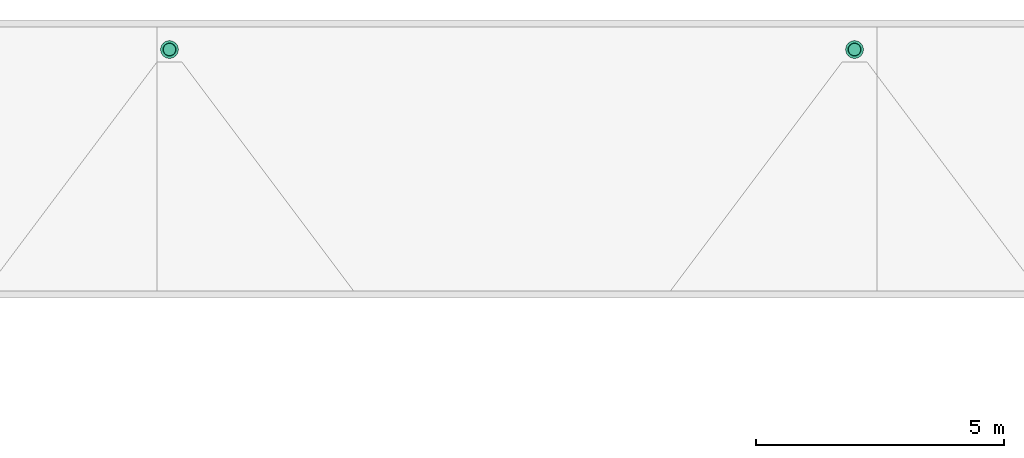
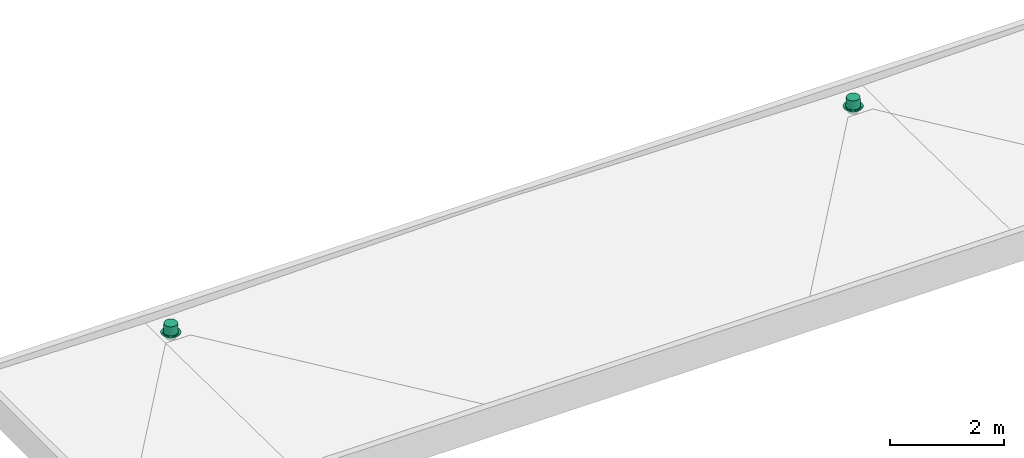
# One storey, part 33 of 33: 2 flow terminals.
"""IFC2X3 building model written with IfcOpenShell, lengths in millimetres."""

from ifc_helpers import new_model, entity, si_unit, converted_unit, derived_unit, direction, frame, origin, place, context, subcontext, project, spatial, faceted_brep, source, transform, mapped, material, material_list, element, save


model = new_model("IFC2X3")

# Units and contexts
model_context = context("Model", 3, precision=0.01, world=origin(), true_north=direction((6.12303176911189e-17, 1.0)))
body_context = subcontext(model_context, "Body", "Model", "MODEL_VIEW")
ifc_project = project(units=[si_unit("LENGTHUNIT", "METRE", prefix="MILLI"), si_unit("AREAUNIT", "SQUARE_METRE"), si_unit("VOLUMEUNIT", "CUBIC_METRE"), converted_unit("PLANEANGLEUNIT", "DEGREE", entity("IfcRatioMeasure", 0.0174532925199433), si_unit("PLANEANGLEUNIT", "RADIAN"), dimensions=[0, 0, 0, 0, 0, 0, 0]), si_unit("MASSUNIT", "GRAM", prefix="KILO"), derived_unit("MASSDENSITYUNIT", [(si_unit("MASSUNIT", "GRAM", prefix="KILO"), 1), (si_unit("LENGTHUNIT", "METRE"), -3)]), si_unit("TIMEUNIT", "SECOND"), si_unit("FREQUENCYUNIT", "HERTZ"), si_unit("THERMODYNAMICTEMPERATUREUNIT", "DEGREE_CELSIUS"), derived_unit("THERMALTRANSMITTANCEUNIT", [(si_unit("MASSUNIT", "GRAM", prefix="KILO"), 1), (si_unit("THERMODYNAMICTEMPERATUREUNIT", "KELVIN"), -1), (si_unit("TIMEUNIT", "SECOND"), -3)]), derived_unit("VOLUMETRICFLOWRATEUNIT", [(si_unit("LENGTHUNIT", "METRE"), 3), (si_unit("TIMEUNIT", "SECOND"), -1)]), si_unit("ELECTRICCURRENTUNIT", "AMPERE"), si_unit("ELECTRICVOLTAGEUNIT", "VOLT"), si_unit("POWERUNIT", "WATT"), si_unit("FORCEUNIT", "NEWTON", prefix="KILO"), si_unit("ILLUMINANCEUNIT", "LUX"), si_unit("LUMINOUSFLUXUNIT", "LUMEN"), si_unit("LUMINOUSINTENSITYUNIT", "CANDELA"), derived_unit("USERDEFINED", [(si_unit("MASSUNIT", "GRAM", prefix="KILO"), -1), (si_unit("LENGTHUNIT", "METRE"), -2), (si_unit("TIMEUNIT", "SECOND"), 3), (si_unit("LUMINOUSFLUXUNIT", "LUMEN"), 1)]), derived_unit("LINEARVELOCITYUNIT", [(si_unit("LENGTHUNIT", "METRE"), 1), (si_unit("TIMEUNIT", "SECOND"), -1)]), si_unit("PRESSUREUNIT", "PASCAL"), derived_unit("USERDEFINED", [(si_unit("LENGTHUNIT", "METRE"), -2), (si_unit("MASSUNIT", "GRAM", prefix="KILO"), 1), (si_unit("TIMEUNIT", "SECOND"), -2)])], contexts=[model_context])

# Site, building, storey
site_placement = place(None, origin())
site = spatial("IfcSite", under=ifc_project, at=site_placement, Name="Default", CompositionType="ELEMENT")
building_placement = place(site_placement, origin())
building = spatial("IfcBuilding", under=site, at=building_placement, CompositionType="ELEMENT")
storey_placement = place(building_placement, frame((0.0, 0.0, 4000.0)))
storey = spatial("IfcBuildingStorey", under=building, at=storey_placement, Name="2. KORRUS", CompositionType="ELEMENT", Elevation=4000.0)

# Flow terminals
ifc_material_1 = material(Name="Platic-WATTS_Polyethylene")
ifc_material_2 = material(Name="Metal-WATTS-Cast Iron")
ifc_material_list_1 = material_list([ifc_material_1, ifc_material_2])
shared_shape = source(origin(), body_context, "Body", "Brep", [
    faceted_brep([(95.1434063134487, 109.801344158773, 0.0), (122.224043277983, 78.5486230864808, 0.0), (0.0, 0.0, 0.0), (60.3548164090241, 132.158613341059, 0.0), (139.402815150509, 40.9323597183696, 0.0), (145.288000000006, 0.0, 0.0), (139.40281515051, -40.9323597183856, 0.0), (122.224043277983, -78.5486230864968, 0.0), (95.1434063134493, -109.80134415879, 0.0), (60.3548164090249, -132.158613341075, 0.0), (20.676638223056, -143.809177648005, 0.0), (-20.6766382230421, -143.809177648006, 0.0), (-60.3548164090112, -132.158613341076, 0.0), (-95.1434063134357, -109.80134415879, 0.0), (-122.22404327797, -78.548623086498, 0.0), (-139.402815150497, -40.9323597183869, 0.0), (-145.287999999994, 0.0, 0.0), (-139.402815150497, 40.9323597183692, 0.0), (-122.22404327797, 78.5486230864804, 0.0), (-95.1434063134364, 109.801344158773, 0.0), (-60.354816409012, 132.158613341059, 0.0), (-20.676638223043, 143.809177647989, 0.0), (20.6766382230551, 143.809177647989, 0.0), (117.160652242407, 38.0678035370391, 193.64960000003), (0.0, 0.0, 193.649600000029), (123.190000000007, 0.0, 193.649600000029), (99.6628035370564, 72.4092652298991, 193.64960000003), (72.4092652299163, 99.6628035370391, 193.64960000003), (38.0678035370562, 117.160652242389, 193.649600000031), (0.0, 123.189999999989, 193.649600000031), (-38.0678035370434, 117.160652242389, 193.649600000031), (-72.4092652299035, 99.6628035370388, 193.649600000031), (-99.6628035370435, 72.4092652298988, 193.64960000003), (-117.160652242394, 38.0678035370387, 193.64960000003), (-123.189999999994, 0.0, 193.649600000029), (-117.160652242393, -38.0678035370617, 193.649600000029), (-99.662803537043, -72.4092652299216, 193.649600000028), (-72.4092652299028, -99.6628035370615, 193.649600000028), (-38.0678035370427, -117.160652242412, 193.649600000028), (0.0, -123.190000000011, 193.649600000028), (38.067803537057, -117.160652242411, 193.649600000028), (72.4092652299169, -99.6628035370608, 193.649600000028), (99.6628035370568, -72.4092652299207, 193.649600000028), (117.160652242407, -38.0678035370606, 193.649600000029), (-126.2424095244, 37.068115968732, 7.9248000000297), (-86.1613364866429, 99.4354829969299, 7.9248000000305), (-54.6569840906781, 119.682100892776, 7.92480000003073), (-110.685409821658, 71.1331936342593, 7.92480000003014), (-131.571999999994, 0.0, 7.92480000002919), (-18.7246479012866, 130.23278675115, 7.92480000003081), (18.7246479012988, 130.23278675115, 7.92480000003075), (54.6569840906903, 119.682100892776, 7.92480000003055), (110.68540982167, 71.1331936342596, 7.92480000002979), (86.1613364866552, 99.4354829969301, 7.92480000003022), (126.242409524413, 37.0681159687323, 7.92480000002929), (131.572000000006, 0.0, 7.92480000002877), (126.242409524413, -37.0681159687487, 7.92480000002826), (86.1613364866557, -99.4354829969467, 7.92480000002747), (110.685409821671, -71.1331936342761, 7.92480000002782), (54.656984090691, -119.682100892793, 7.92480000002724), (18.7246479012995, -130.232786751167, 7.92480000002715), (-18.7246479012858, -130.232786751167, 7.92480000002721), (-54.6569840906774, -119.682100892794, 7.92480000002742), (-110.685409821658, -71.133193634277, 7.92480000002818), (-86.1613364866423, -99.4354829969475, 7.92480000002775), (-126.2424095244, -37.0681159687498, 7.92480000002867), (139.402815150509, 40.9323597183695, 7.92480000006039), (145.288000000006, 0.0, 7.92480000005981), (122.224043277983, 78.5486230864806, 7.92480000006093), (95.1434063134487, 109.801344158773, 7.92480000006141), (60.3548164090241, 132.158613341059, 7.92480000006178), (20.6766382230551, 143.809177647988, 7.924800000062), (-20.676638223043, 143.809177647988, 7.92480000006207), (-60.354816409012, 132.158613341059, 7.92480000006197), (-95.1434063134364, 109.801344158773, 7.92480000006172), (-122.22404327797, 78.5486230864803, 7.92480000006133), (-139.402815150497, 40.9323597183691, 7.92480000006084), (-145.287999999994, 0.0, 7.92480000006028), (-139.402815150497, -40.932359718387, 7.92480000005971), (-122.22404327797, -78.5486230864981, 7.92480000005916), (-95.1434063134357, -109.801344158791, 7.92480000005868), (-60.3548164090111, -132.158613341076, 7.92480000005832), (-20.6766382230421, -143.809177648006, 7.92480000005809), (20.676638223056, -143.809177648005, 7.92480000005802), (60.354816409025, -132.158613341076, 7.92480000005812), (95.1434063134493, -109.80134415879, 7.92480000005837), (122.224043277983, -78.548623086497, 7.92480000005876), (139.40281515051, -40.9323597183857, 7.92480000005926)], [[[0, 1, 2]], [[0, 2, 3]], [[4, 2, 1]], [[2, 4, 5]], [[5, 6, 2]], [[2, 6, 7]], [[2, 7, 8]], [[2, 8, 9]], [[9, 10, 2]], [[11, 2, 10]], [[2, 11, 12]], [[2, 12, 13]], [[14, 2, 13]], [[2, 14, 15]], [[15, 16, 2]], [[2, 16, 17]], [[2, 17, 18]], [[18, 19, 2]], [[19, 20, 2]], [[21, 2, 20]], [[2, 21, 22]], [[22, 3, 2]], [[23, 24, 25]], [[26, 24, 23]], [[26, 27, 24]], [[28, 24, 27]], [[28, 29, 24]], [[24, 29, 30]], [[30, 31, 24]], [[24, 31, 32]], [[32, 33, 24]], [[33, 34, 24]], [[34, 35, 24]], [[36, 24, 35]], [[36, 37, 24]], [[37, 38, 24]], [[39, 24, 38]], [[24, 39, 40]], [[40, 41, 24]], [[41, 42, 24]], [[42, 43, 24]], [[24, 43, 25]], [[44, 34, 33]], [[45, 32, 31]], [[46, 31, 30]], [[47, 33, 32]], [[34, 44, 48]], [[44, 33, 47]], [[32, 45, 47]], [[31, 46, 45]], [[30, 49, 46]], [[30, 29, 49]], [[50, 29, 28]], [[27, 51, 28]], [[52, 26, 23]], [[27, 26, 53]], [[54, 23, 25]], [[28, 51, 50]], [[27, 53, 51]], [[52, 53, 26]], [[23, 54, 52]], [[25, 55, 54]], [[29, 50, 49]], [[56, 25, 43]], [[57, 42, 41]], [[43, 42, 58]], [[59, 41, 40]], [[25, 56, 55]], [[43, 58, 56]], [[57, 58, 42]], [[41, 59, 57]], [[40, 60, 59]], [[40, 39, 60]], [[61, 39, 38]], [[37, 62, 38]], [[63, 36, 35]], [[37, 36, 64]], [[65, 35, 34]], [[38, 62, 61]], [[37, 64, 62]], [[63, 64, 36]], [[35, 65, 63]], [[34, 48, 65]], [[39, 61, 60]], [[66, 55, 67]], [[54, 55, 66]], [[66, 68, 54]], [[68, 52, 54]], [[69, 52, 68]], [[52, 69, 53]], [[70, 53, 69]], [[51, 53, 70]], [[70, 71, 51]], [[71, 50, 51]], [[49, 50, 71]], [[71, 72, 49]], [[72, 46, 49]], [[73, 46, 72]], [[46, 73, 45]], [[74, 45, 73]], [[47, 45, 74]], [[74, 75, 47]], [[75, 44, 47]], [[76, 44, 75]], [[44, 76, 48]], [[76, 77, 48]], [[77, 78, 48]], [[65, 48, 78]], [[78, 79, 65]], [[65, 79, 63]], [[80, 63, 79]], [[63, 80, 64]], [[64, 80, 81]], [[62, 64, 81]], [[81, 82, 62]], [[62, 82, 61]], [[83, 61, 82]], [[61, 83, 60]], [[60, 83, 59]], [[84, 59, 83]], [[59, 84, 57]], [[57, 84, 85]], [[58, 57, 85]], [[85, 86, 58]], [[58, 86, 56]], [[87, 56, 86]], [[55, 87, 67]], [[56, 87, 55]], [[76, 17, 16, 77]], [[75, 18, 17, 76]], [[19, 74, 73, 20]], [[75, 74, 19, 18]], [[20, 73, 72, 21]], [[72, 71, 22, 21]], [[70, 69, 0, 3]], [[71, 70, 3, 22]], [[4, 1, 68, 66]], [[69, 68, 1, 0]], [[67, 5, 4, 66]], [[87, 6, 5, 67]], [[86, 7, 6, 87]], [[8, 85, 84, 9]], [[86, 85, 8, 7]], [[9, 84, 83, 10]], [[83, 82, 11, 10]], [[81, 12, 11, 82]], [[80, 13, 12, 81]], [[14, 79, 78, 15]], [[80, 79, 14, 13]], [[15, 78, 77, 16]]]),
    faceted_brep([(-173.213682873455, 46.412466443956, 0.0), (-173.213682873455, 46.4124664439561, -7.92480000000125), (-179.323999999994, 0.0, -7.92480000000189), (-179.323999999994, 0.0, 0.0), (-155.299139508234, 89.6619999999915, 0.0), (-155.299139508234, 89.6619999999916, -7.92480000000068), (-89.6619999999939, 155.299139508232, -7.92479999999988), (-126.80121642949, 126.801216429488, -7.92480000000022), (-126.80121642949, 126.801216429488, 0.0), (-89.6619999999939, 155.299139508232, 0.0), (-46.4124664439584, 173.213682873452, -7.9247999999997), (-46.4124664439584, 173.213682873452, 0.0), (0.0, 179.323999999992, -7.9247999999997), (0.0, 179.323999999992, 0.0), (46.4124664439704, 173.213682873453, 0.0), (46.4124664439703, 173.213682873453, -7.92479999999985), (155.299139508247, 89.6619999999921, -7.92480000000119), (155.299139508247, 89.661999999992, 0.0), (173.213682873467, 46.4124664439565, 0.0), (173.213682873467, 46.4124664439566, -7.92480000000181), (126.801216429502, 126.801216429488, -7.92480000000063), (126.801216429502, 126.801216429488, 0.0), (179.324000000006, 0.0, 0.0), (179.324000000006, 0.0, -7.92480000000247), (89.6620000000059, 155.299139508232, 0.0), (89.6620000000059, 155.299139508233, -7.92480000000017), (173.213682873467, -46.4124664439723, 0.0), (173.213682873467, -46.4124664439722, -7.9248000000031), (155.299139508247, -89.6620000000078, 0.0), (155.299139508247, -89.6620000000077, -7.92480000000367), (89.6620000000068, -155.299139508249, -7.92480000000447), (126.801216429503, -126.801216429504, -7.92480000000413), (126.801216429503, -126.801216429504, 0.0), (89.6620000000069, -155.299139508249, 0.0), (46.4124664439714, -173.213682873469, -7.92480000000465), (46.4124664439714, -173.213682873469, 0.0), (0.0, -179.324000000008, -7.92480000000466), (0.0, -179.324000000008, 0.0), (-46.4124664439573, -173.21368287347, 0.0), (-46.4124664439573, -173.213682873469, -7.9248000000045), (-89.6619999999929, -155.29913950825, 0.0), (-89.6619999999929, -155.299139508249, -7.92480000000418), (-155.299139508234, -89.6620000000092, -7.92480000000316), (-126.801216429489, -126.801216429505, -7.92480000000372), (-126.801216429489, -126.801216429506, 0.0), (-155.299139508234, -89.6620000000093, 0.0), (-173.213682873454, -46.412466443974, -7.92480000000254), (-173.213682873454, -46.4124664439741, 0.0), (157.175200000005, 0.0, -7.92480000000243), (151.819584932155, -40.6799351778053, -7.92480000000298), (136.117716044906, -78.5876000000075, -7.92480000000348), (111.139649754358, -111.139649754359, -7.92480000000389), (78.5876000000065, -136.117716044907, -7.92480000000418), (40.6799351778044, -151.819584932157, -7.92480000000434), (0.0, -157.175200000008, -7.92480000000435), (-40.6799351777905, -151.819584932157, -7.92480000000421), (-78.5875999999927, -136.117716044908, -7.92480000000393), (-111.139649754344, -111.13964975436, -7.92480000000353), (-136.117716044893, -78.5876000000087, -7.92480000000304), (-151.819584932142, -40.6799351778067, -7.92480000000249), (-157.175199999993, 0.0, -7.92480000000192), (-151.819584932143, 40.6799351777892, -7.92480000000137), (-136.117716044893, 78.5875999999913, -7.92480000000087), (-111.139649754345, 111.139649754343, -7.92480000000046), (-78.5875999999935, 136.117716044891, -7.92480000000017), (-40.6799351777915, 151.81958493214, -7.92480000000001), (0.0, 157.175199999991, -7.9248), (40.6799351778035, 151.819584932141, -7.92480000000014), (78.5876000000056, 136.117716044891, -7.92480000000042), (111.139649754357, 111.139649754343, -7.92480000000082), (136.117716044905, 78.5875999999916, -7.92480000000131), (151.819584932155, 40.6799351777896, -7.92480000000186), (-136.117716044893, 78.5875999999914, -16.6624000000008), (-151.819584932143, 40.6799351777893, -16.6624000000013), (-157.175199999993, 0.0, -16.6624000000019), (-40.6799351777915, 151.819584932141, -16.6624), (-78.5875999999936, 136.117716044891, -16.6624000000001), (-111.139649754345, 111.139649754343, -16.6624000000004), (0.0, 157.175199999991, -16.6624), (78.5876000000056, 136.117716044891, -16.6624000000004), (40.6799351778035, 151.819584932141, -16.6624000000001), (136.117716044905, 78.5875999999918, -16.6624000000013), (111.139649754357, 111.139649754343, -16.6624000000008), (151.819584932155, 40.6799351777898, -16.6624000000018), (157.175200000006, 0.0, -16.6624000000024), (136.117716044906, -78.5876000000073, -16.6624000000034), (151.819584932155, -40.6799351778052, -16.6624000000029), (40.6799351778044, -151.819584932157, -16.6624000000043), (78.5876000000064, -136.117716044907, -16.6624000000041), (111.139649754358, -111.139649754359, -16.6624000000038), (0.0, -157.175200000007, -16.6624000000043), (-111.139649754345, -111.13964975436, -16.6624000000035), (-78.5875999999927, -136.117716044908, -16.6624000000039), (-40.6799351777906, -151.819584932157, -16.6624000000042), (-151.819584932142, -40.6799351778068, -16.6624000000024), (-136.117716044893, -78.5876000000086, -16.662400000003), (103.987600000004, 0.0, -16.6624000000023), (97.716380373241, 35.5658538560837, -16.6624000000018), (97.7163803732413, -35.5658538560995, -16.6624000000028), (79.659123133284, -66.8419408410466, -16.6624000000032), (51.9938000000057, -90.055903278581, -16.6624000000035), (18.0572572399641, -102.407794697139, -16.6624000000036), (-18.0572572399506, -102.407794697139, -16.6624000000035), (-51.9937999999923, -90.0559032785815, -16.6624000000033), (-79.6591231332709, -66.8419408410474, -16.6624000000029), (-97.7163803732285, -35.5658538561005, -16.6624000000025), (-103.987599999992, 0.0, -16.662400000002), (-97.7163803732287, 35.5658538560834, -16.6624000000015), (-79.6591231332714, 66.8419408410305, -16.6624000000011), (-51.9937999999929, 90.0559032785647, -16.6624000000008), (-18.0572572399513, 102.407794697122, -16.6624000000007), (18.0572572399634, 102.407794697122, -16.6624000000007), (51.9938000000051, 90.0559032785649, -16.662400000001), (79.6591231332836, 66.8419408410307, -16.6624000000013), (-97.7163803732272, 35.5658538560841, -109.52479999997), (-103.98759999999, 0.0, -109.524799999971), (-18.0572572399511, 102.407794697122, -109.52479999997), (-51.9937999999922, 90.0559032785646, -109.52479999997), (-79.6591231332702, 66.8419408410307, -109.52479999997), (18.0572572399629, 102.407794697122, -109.52479999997), (51.9938000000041, 90.0559032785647, -109.52479999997), (79.6591231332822, 66.8419408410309, -109.52479999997), (97.7163803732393, 35.5658538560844, -109.524799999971), (103.987600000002, 0.0, -109.524799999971), (97.7163803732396, -35.5658538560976, -109.524799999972), (79.6591231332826, -66.8419408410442, -109.524799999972), (51.9938000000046, -90.0559032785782, -109.524799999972), (18.0572572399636, -102.407794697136, -109.524799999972), (-18.0572572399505, -102.407794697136, -109.524799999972), (-51.9937999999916, -90.0559032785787, -109.524799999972), (-79.6591231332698, -66.841940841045, -109.524799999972), (-97.716380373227, -35.5658538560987, -109.524799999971), (29.7180000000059, 0.0, -109.524799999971), (26.8801835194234, 8.73390106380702, -109.524799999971), (24.0423670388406, 17.4678021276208, -109.524799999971), (26.8801835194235, -8.73390106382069, -109.524799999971), (24.0423670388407, -17.4678021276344, -109.524799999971), (16.6128670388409, -22.8656498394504, -109.524799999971), (9.18336703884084, -28.2634975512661, -109.524799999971), (0.0, -28.2634975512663, -109.524799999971), (-9.1833670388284, -28.2634975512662, -109.524799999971), (-16.6128670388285, -22.8656498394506, -109.524799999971), (-24.0423670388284, -17.4678021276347, -109.524799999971), (-26.8801835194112, -8.73390106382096, -109.524799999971), (-29.7179999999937, 0.0, -109.524799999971), (-26.8801835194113, 8.73390106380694, -109.524799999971), (-24.0423670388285, 17.4678021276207, -109.524799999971), (-16.6128670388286, 22.8656498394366, -109.524799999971), (-9.18336703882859, 28.2634975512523, -109.524799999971), (0.0, 28.2634975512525, -109.52479999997), (9.18336703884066, 28.2634975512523, -109.524799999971), (16.6128670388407, 22.8656498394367, -109.524799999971), (-24.0423670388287, 17.4678021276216, -166.674799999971), (-27.0924949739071, 8.08047359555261, -166.674799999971), (-29.717999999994, 0.0, -166.674799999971), (9.18336703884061, 28.2634975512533, -166.67479999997), (24.0423670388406, 17.4678021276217, -166.674799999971), (16.6128670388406, 22.8656498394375, -166.674799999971), (-9.18336703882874, 28.2634975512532, -166.67479999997), (-16.6128670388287, 22.8656498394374, -166.674799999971), (0.0, 28.2634975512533, -166.67479999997), (27.0924950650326, 8.08047331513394, -166.674799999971), (29.718000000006, 0.0, -166.674799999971), (24.0423670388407, -17.4678021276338, -166.674799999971), (9.18336703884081, -28.2634975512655, -166.674799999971), (16.6128670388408, -22.8656498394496, -166.674799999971), (26.8801835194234, -8.73390106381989, -166.674799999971), (-27.0924950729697, -8.0804732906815, -166.674799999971), (-24.0423670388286, -17.467802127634, -166.674799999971), (-9.18336703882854, -28.2634975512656, -166.674799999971), (0.0, -28.2634975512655, -166.674799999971), (-16.6128670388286, -22.8656498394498, -166.674799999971), (0.0, 0.0, -166.674799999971), (0.0, 0.0, 0.0)], [[[0, 1, 2, 3]], [[4, 5, 1, 0]], [[6, 7, 8, 9]], [[4, 8, 7, 5]], [[10, 6, 9, 11]], [[12, 10, 11, 13]], [[13, 14, 15, 12]], [[16, 17, 18, 19]], [[17, 16, 20, 21]], [[19, 18, 22, 23]], [[15, 14, 24, 25]], [[24, 21, 20, 25]], [[26, 27, 23, 22]], [[28, 29, 27, 26]], [[30, 31, 32, 33]], [[28, 32, 31, 29]], [[34, 30, 33, 35]], [[36, 34, 35, 37]], [[38, 39, 36, 37]], [[40, 41, 39, 38]], [[42, 43, 44, 45]], [[40, 44, 43, 41]], [[46, 47, 3, 2]], [[46, 42, 45, 47]], [[23, 48, 19]], [[23, 27, 48]], [[48, 27, 49]], [[29, 49, 27]], [[50, 49, 29]], [[31, 50, 29]], [[50, 31, 51]], [[51, 31, 30]], [[51, 30, 52]], [[52, 30, 34]], [[34, 53, 52]], [[36, 53, 34]], [[53, 36, 54]], [[55, 54, 36]], [[36, 39, 55]], [[55, 39, 56]], [[41, 56, 39]], [[57, 56, 41]], [[57, 41, 43]], [[57, 43, 58]], [[43, 42, 58]], [[59, 58, 42]], [[46, 59, 42]], [[46, 60, 59]], [[2, 60, 46]], [[60, 2, 1]], [[60, 1, 61]], [[5, 61, 1]], [[62, 61, 5]], [[62, 5, 7]], [[7, 63, 62]], [[63, 7, 6]], [[6, 64, 63]], [[64, 6, 10]], [[10, 65, 64]], [[12, 65, 10]], [[12, 66, 65]], [[12, 67, 66]], [[67, 12, 15]], [[68, 67, 15]], [[68, 15, 25]], [[25, 69, 68]], [[20, 69, 25]], [[69, 20, 70]], [[16, 70, 20]], [[16, 71, 70]], [[71, 16, 19]], [[19, 48, 71]], [[61, 62, 72, 73]], [[60, 61, 73, 74]], [[64, 65, 75, 76]], [[63, 64, 76, 77]], [[62, 63, 77, 72]], [[78, 75, 65, 66]], [[79, 80, 67, 68]], [[80, 78, 66, 67]], [[70, 81, 82, 69]], [[79, 68, 69, 82]], [[81, 70, 71, 83]], [[84, 83, 71, 48]], [[49, 50, 85, 86]], [[48, 49, 86, 84]], [[52, 53, 87, 88]], [[51, 52, 88, 89]], [[50, 51, 89, 85]], [[90, 87, 53, 54]], [[56, 57, 91, 92]], [[55, 56, 92, 93]], [[59, 60, 74, 94]], [[58, 59, 94, 95]], [[57, 58, 95, 91]], [[55, 93, 90, 54]], [[83, 84, 96]], [[96, 97, 83]], [[83, 97, 81]], [[96, 84, 86]], [[98, 96, 86]], [[98, 86, 85]], [[99, 98, 85]], [[85, 89, 99]], [[89, 100, 99]], [[89, 88, 100]], [[87, 100, 88]], [[100, 87, 101]], [[101, 87, 90]], [[90, 102, 101]], [[90, 93, 102]], [[102, 93, 103]], [[92, 103, 93]], [[103, 92, 91]], [[103, 91, 104]], [[104, 91, 95]], [[105, 104, 95]], [[94, 105, 95]], [[106, 105, 94]], [[94, 74, 106]], [[73, 106, 74]], [[107, 106, 73]], [[107, 73, 72]], [[108, 107, 72]], [[108, 72, 77]], [[77, 109, 108]], [[109, 77, 76]], [[109, 76, 75]], [[75, 110, 109]], [[78, 110, 75]], [[110, 78, 111]], [[80, 111, 78]], [[112, 111, 80]], [[112, 80, 79]], [[82, 112, 79]], [[82, 81, 113]], [[113, 112, 82]], [[81, 97, 113]], [[114, 115, 106, 107]], [[109, 110, 116, 117]], [[107, 108, 118, 114]], [[109, 117, 118, 108]], [[110, 111, 119, 116]], [[119, 111, 112, 120]], [[121, 113, 97, 122]], [[112, 113, 121, 120]], [[122, 97, 96, 123]], [[124, 123, 96, 98]], [[125, 99, 100, 126]], [[98, 99, 125, 124]], [[126, 100, 101, 127]], [[101, 102, 128, 127]], [[128, 102, 103, 129]], [[130, 104, 105, 131]], [[103, 104, 130, 129]], [[131, 105, 106, 115]], [[122, 123, 132]], [[122, 132, 133]], [[122, 133, 134]], [[122, 134, 121]], [[123, 124, 132]], [[124, 135, 132]], [[124, 136, 135]], [[136, 124, 125]], [[136, 125, 126]], [[126, 137, 136]], [[126, 138, 137]], [[138, 126, 127]], [[127, 128, 138]], [[128, 139, 138]], [[128, 140, 139]], [[140, 128, 129]], [[129, 141, 140]], [[129, 142, 141]], [[129, 130, 142]], [[131, 142, 130]], [[131, 143, 142]], [[131, 144, 143]], [[115, 144, 131]], [[115, 114, 144]], [[114, 145, 144]], [[114, 146, 145]], [[114, 118, 146]], [[118, 117, 146]], [[117, 147, 146]], [[117, 148, 147]], [[116, 148, 117]], [[116, 149, 148]], [[116, 150, 149]], [[150, 116, 119]], [[150, 119, 120]], [[120, 134, 151]], [[121, 134, 120]], [[120, 151, 150]], [[152, 153, 154, 144, 145, 146]], [[155, 150, 151, 134, 156, 157]], [[148, 158, 159, 152, 146, 147]], [[160, 158, 148, 149, 150, 155]], [[161, 156, 134, 133, 132, 162]], [[163, 136, 137, 138, 164, 165]], [[166, 162, 132, 135, 136, 163]], [[144, 154, 167, 168, 142, 143]], [[164, 138, 139, 140, 169, 170]], [[171, 169, 140, 141, 142, 168]], [[172, 155, 157]], [[172, 157, 156]], [[172, 156, 161]], [[172, 161, 162]], [[172, 162, 166]], [[172, 160, 155]], [[172, 158, 160]], [[172, 159, 158]], [[172, 152, 159]], [[172, 153, 152]], [[172, 154, 153]], [[172, 166, 163]], [[172, 163, 165]], [[172, 165, 164]], [[172, 164, 170]], [[172, 167, 154]], [[172, 168, 167]], [[172, 171, 168]], [[172, 169, 171]], [[172, 170, 169]], [[18, 173, 22]], [[17, 173, 18]], [[21, 173, 17]], [[24, 173, 21]], [[24, 14, 173]], [[14, 13, 173]], [[13, 11, 173]], [[9, 173, 11]], [[8, 173, 9]], [[4, 173, 8]], [[4, 0, 173]], [[0, 3, 173]], [[173, 3, 47]], [[47, 45, 173]], [[44, 173, 45]], [[44, 40, 173]], [[40, 38, 173]], [[37, 173, 38]], [[173, 37, 35]], [[35, 33, 173]], [[32, 173, 33]], [[173, 32, 28]], [[173, 28, 26]], [[173, 26, 22]]]),
])
flow_terminal_1_placement = place(storey_placement, frame((944.770000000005, 40304.9994344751, -170.0), z_axis=(0.0, 0.0, 1.0), x_axis=(-1.0, 0.0, 0.0)))
element("IfcFlowTerminal", 1, at=flow_terminal_1_placement, inside=storey, material=ifc_material_list_1, Name="Varikatuse trapp:trapp", ObjectType="trapp", context=body_context, shape_type="MappedRepresentation", body=[
    mapped(shared_shape, transform((0.0, 0.0, 0.0), scale=1.0)),
])
ifc_material_list_2 = material_list([ifc_material_1, ifc_material_2])
flow_terminal_2_placement = place(storey_placement, frame((-12850.2343602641, 40304.9994344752, -170.0), z_axis=(0.0, 0.0, 1.0), x_axis=(-1.0, 0.0, 0.0)))
element("IfcFlowTerminal", 2, at=flow_terminal_2_placement, inside=storey, material=ifc_material_list_2, Name="Varikatuse trapp:trapp", ObjectType="trapp", context=body_context, shape_type="MappedRepresentation", body=[
    mapped(shared_shape, transform((0.0, 0.0, 0.0), scale=1.0)),
])

save(model, "model.ifc")
